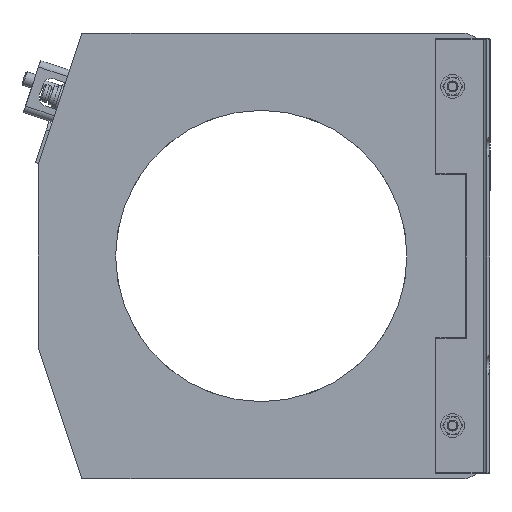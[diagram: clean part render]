
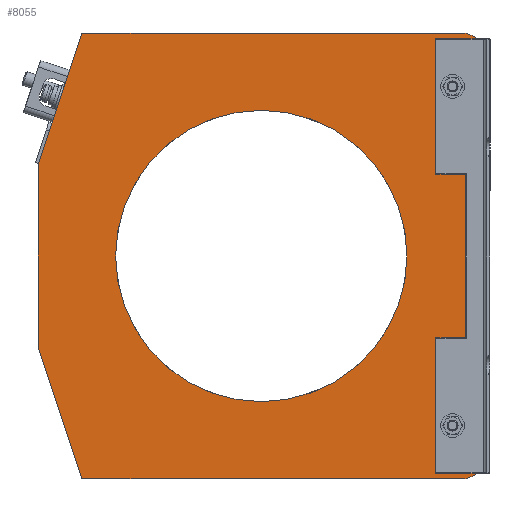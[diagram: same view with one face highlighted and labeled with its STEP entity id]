
A CAD part, left-side view. The second image highlights one B-rep face of the part: STEP entity #8055.
In plain terms, the highlighted planar face has unit normal (-1, 0, 0).
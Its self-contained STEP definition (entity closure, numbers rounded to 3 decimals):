
#338=FACE_BOUND('',#1510,.T.);
#339=FACE_BOUND('',#1511,.T.);
#340=FACE_BOUND('',#1512,.T.);
#731=PLANE('',#8802);
#994=FACE_OUTER_BOUND('',#1509,.T.);
#1509=EDGE_LOOP('',(#6165,#6166,#6167,#6168,#6169,#6170,#6171,#6172));
#1510=EDGE_LOOP('',(#6173));
#1511=EDGE_LOOP('',(#6174));
#1512=EDGE_LOOP('',(#6175));
#2100=LINE('',#13509,#2725);
#2118=LINE('',#13565,#2743);
#2122=LINE('',#13576,#2747);
#2124=LINE('',#13580,#2749);
#2127=LINE('',#13586,#2752);
#2130=LINE('',#13591,#2755);
#2725=VECTOR('',#9974,10.);
#2743=VECTOR('',#10034,10.);
#2747=VECTOR('',#10046,10.);
#2749=VECTOR('',#10050,10.);
#2752=VECTOR('',#10055,10.);
#2755=VECTOR('',#10060,10.);
#3176=CIRCLE('',#8784,2.5);
#3178=CIRCLE('',#8787,2.5);
#3179=CIRCLE('',#8789,67.);
#3181=CIRCLE('',#8792,10.);
#3183=CIRCLE('',#8796,10.);
#3770=VERTEX_POINT('',#13506);
#3771=VERTEX_POINT('',#13508);
#3779=VERTEX_POINT('',#13539);
#3781=VERTEX_POINT('',#13545);
#3782=VERTEX_POINT('',#13549);
#3784=VERTEX_POINT('',#13555);
#3785=VERTEX_POINT('',#13556);
#3788=VERTEX_POINT('',#13564);
#3790=VERTEX_POINT('',#13570);
#3792=VERTEX_POINT('',#13579);
#3794=VERTEX_POINT('',#13585);
#4597=EDGE_CURVE('',#3771,#3770,#2100,.T.);
#4613=EDGE_CURVE('',#3779,#3779,#3176,.T.);
#4616=EDGE_CURVE('',#3781,#3781,#3178,.T.);
#4617=EDGE_CURVE('',#3782,#3782,#3179,.T.);
#4620=EDGE_CURVE('',#3784,#3785,#3181,.T.);
#4624=EDGE_CURVE('',#3785,#3788,#2118,.T.);
#4627=EDGE_CURVE('',#3788,#3790,#3183,.T.);
#4630=EDGE_CURVE('',#3790,#3771,#2122,.T.);
#4632=EDGE_CURVE('',#3770,#3792,#2124,.T.);
#4635=EDGE_CURVE('',#3792,#3794,#2127,.T.);
#4638=EDGE_CURVE('',#3794,#3784,#2130,.T.);
#6165=ORIENTED_EDGE('',*,*,#4638,.T.);
#6166=ORIENTED_EDGE('',*,*,#4620,.T.);
#6167=ORIENTED_EDGE('',*,*,#4624,.T.);
#6168=ORIENTED_EDGE('',*,*,#4627,.T.);
#6169=ORIENTED_EDGE('',*,*,#4630,.T.);
#6170=ORIENTED_EDGE('',*,*,#4597,.T.);
#6171=ORIENTED_EDGE('',*,*,#4632,.T.);
#6172=ORIENTED_EDGE('',*,*,#4635,.T.);
#6173=ORIENTED_EDGE('',*,*,#4613,.T.);
#6174=ORIENTED_EDGE('',*,*,#4616,.T.);
#6175=ORIENTED_EDGE('',*,*,#4617,.T.);
#8055=ADVANCED_FACE('',(#994,#338,#339,#340),#731,.F.);
#8784=AXIS2_PLACEMENT_3D('',#13541,#10008,#10009);
#8787=AXIS2_PLACEMENT_3D('',#13547,#10015,#10016);
#8789=AXIS2_PLACEMENT_3D('',#13550,#10019,#10020);
#8792=AXIS2_PLACEMENT_3D('',#13557,#10026,#10027);
#8796=AXIS2_PLACEMENT_3D('',#13571,#10039,#10040);
#8802=AXIS2_PLACEMENT_3D('',#13593,#10062,#10063);
#9974=DIRECTION('',(0.,0.316,-0.949));
#10008=DIRECTION('center_axis',(1.,0.,0.));
#10009=DIRECTION('ref_axis',(0.,0.,-1.));
#10015=DIRECTION('center_axis',(1.,0.,0.));
#10016=DIRECTION('ref_axis',(0.,0.,-1.));
#10019=DIRECTION('center_axis',(1.,0.,0.));
#10020=DIRECTION('ref_axis',(0.,-1.,0.));
#10026=DIRECTION('center_axis',(-1.,0.,0.));
#10027=DIRECTION('ref_axis',(0.,1.,0.));
#10034=DIRECTION('',(0.,0.,1.));
#10039=DIRECTION('center_axis',(-1.,0.,0.));
#10040=DIRECTION('ref_axis',(0.,0.,-1.));
#10046=DIRECTION('',(0.,1.,0.));
#10050=DIRECTION('',(0.,0.,-1.));
#10055=DIRECTION('',(0.,-0.316,-0.949));
#10060=DIRECTION('',(0.,-1.,0.));
#10062=DIRECTION('center_axis',(1.,0.,0.));
#10063=DIRECTION('ref_axis',(0.,0.,-1.));
#13506=CARTESIAN_POINT('',(0.,204.674,-60.));
#13508=CARTESIAN_POINT('',(0.,184.674,0.));
#13509=CARTESIAN_POINT('',(0.,184.674,0.));
#13539=CARTESIAN_POINT('',(0.,14.174,-22.));
#13541=CARTESIAN_POINT('Origin',(0.,14.174,-24.5));
#13545=CARTESIAN_POINT('',(0.,14.174,-178.));
#13547=CARTESIAN_POINT('Origin',(0.,14.174,-180.5));
#13549=CARTESIAN_POINT('',(0.,169.174,-102.5));
#13550=CARTESIAN_POINT('Origin',(0.,102.174,-102.5));
#13555=CARTESIAN_POINT('',(0.,9.674,-205.));
#13556=CARTESIAN_POINT('',(0.,-0.326,-195.));
#13557=CARTESIAN_POINT('Origin',(0.,9.674,-195.));
#13564=CARTESIAN_POINT('',(0.,-0.326,-10.));
#13565=CARTESIAN_POINT('',(0.,-0.326,-195.));
#13570=CARTESIAN_POINT('',(0.,9.674,0.));
#13571=CARTESIAN_POINT('Origin',(0.,9.674,-10.));
#13576=CARTESIAN_POINT('',(0.,9.674,0.));
#13579=CARTESIAN_POINT('',(0.,204.674,-145.));
#13580=CARTESIAN_POINT('',(0.,204.674,-60.));
#13585=CARTESIAN_POINT('',(0.,184.674,-205.));
#13586=CARTESIAN_POINT('',(0.,204.674,-145.));
#13591=CARTESIAN_POINT('',(0.,184.674,-205.));
#13593=CARTESIAN_POINT('Origin',(0.,98.76,-102.5));
